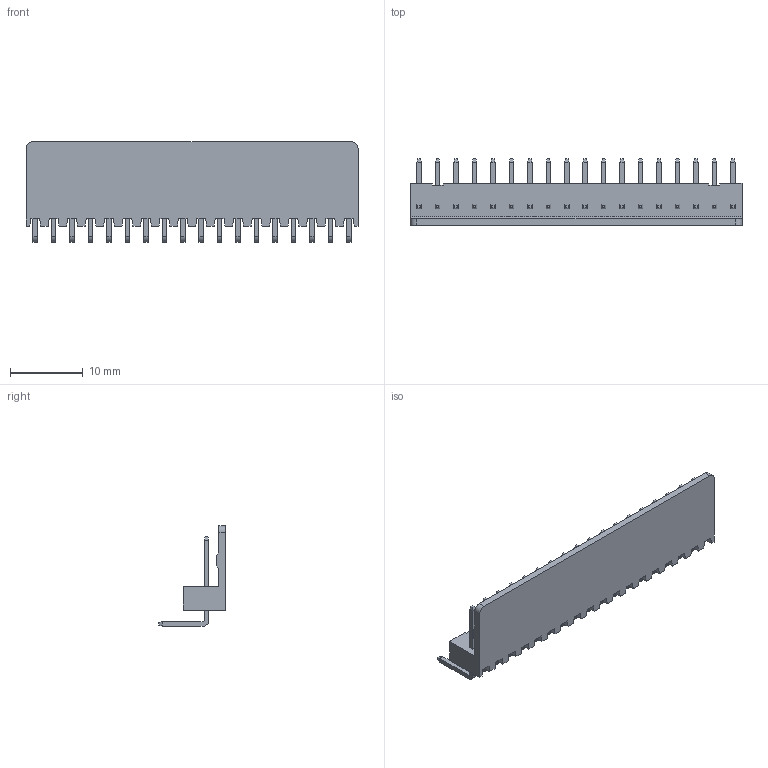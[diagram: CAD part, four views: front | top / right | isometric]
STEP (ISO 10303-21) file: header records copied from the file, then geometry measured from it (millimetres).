
FILE_DESCRIPTION(('CATIA V5 STEP Exchange'),'2;1');
FILE_NAME('F:\黄富鸿\条形连接器\2.50系列\24--2510（宏一）\NAWB-G（反向 高弯针）\HC-2510-18AWB-G-02（2.54 单排 反向高弯针-HCTL）.stp','2025-11-19T06:48:53+00:00',('none'),('none'),'CATIA Version 5 Release 20 GA (IN-10)','CATIA V5 STEP AP203','none');
FILE_SCHEMA(('CONFIG_CONTROL_DESIGN'));
Length unit declared in the file: millimetre
Products named in the file (1): Part1
Bounding box: 45.72 x 9.2 x 13.82 mm (x, y, z)
Volume: 1192.4 mm3; surface area: 2713.3 mm2
Topology: 19 solids, 19 shells, 490 faces, 1208 edges, 756 vertices
Faces by surface type: plane 452, cylinder 38
Entity records: 12517 total; most frequent: ORIENTED_EDGE 2416, CARTESIAN_POINT 2322, DIRECTION 1490, EDGE_CURVE 1208, VECTOR 988, LINE 988, VERTEX_POINT 756, EDGE_LOOP 526
